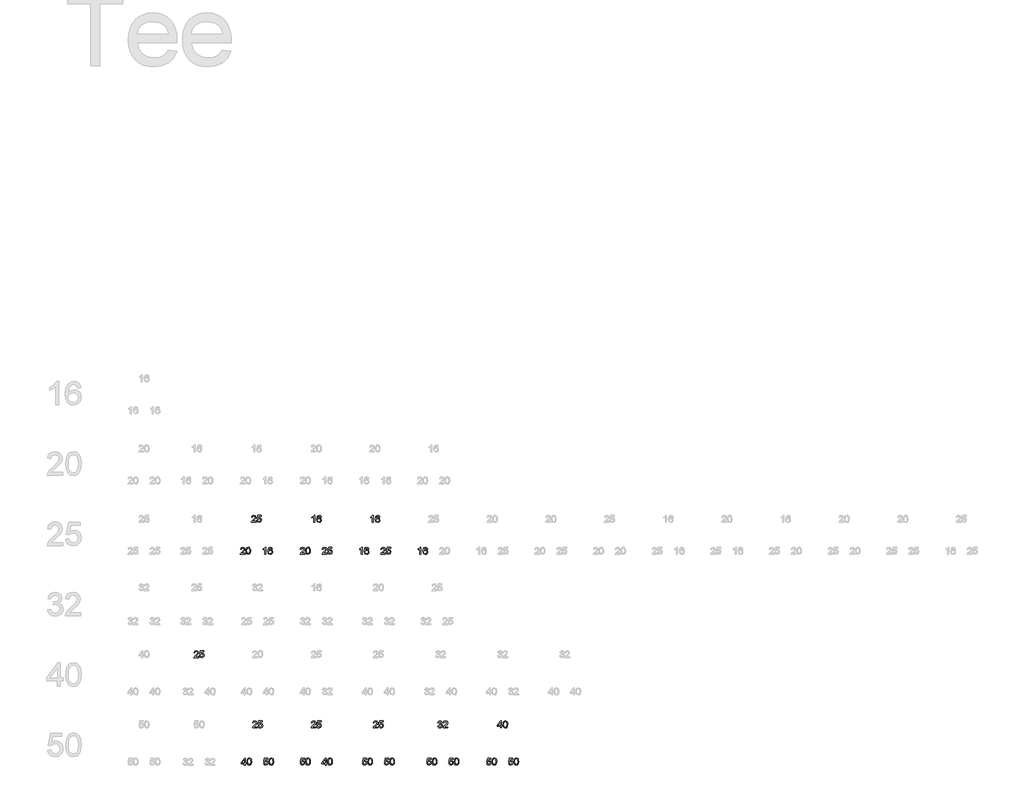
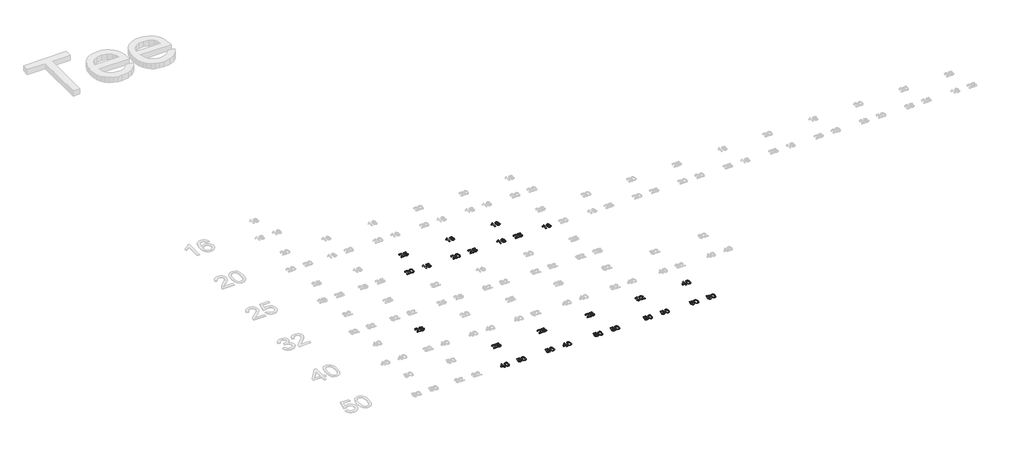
# One storey, part 17 of 26: 26 proxies.
"""IFC4 building model written with IfcOpenShell, lengths in millimetres."""

import ifcopenshell
import ifcopenshell.guid

model = None  # the IFC model being written
_history = None  # IfcOwnerHistory: only IFC2X3 demands one
_inside = {}  # id of a spatial element -> (the spatial element, [elements in it])
_under = {}  # id of a project, library or spatial element -> (it, [spatial elements below it])
_declared = {}  # id of a project -> (the project, [libraries it declares])
_typed = {}  # id of a type object -> (the type object, [elements of that type])
_made_of = {}  # id of a material, layer set ... -> (it, [elements and type objects made of it])


def new_model(schema):
    """Start an empty IFC model of exactly this schema.

    Asked for "IFC4X3", IfcOpenShell would pick the latest addendum, in which some entities
    have other attributes; the version numbers below select the first issue.
    IFC2X3 requires an IfcOwnerHistory on every rooted entity: one is made here for all.
    """
    global model, _history
    if schema == "IFC4X3":
        model = ifcopenshell.file(schema_version=(4, 3, 0, 0))
    else:
        model = ifcopenshell.file(schema=schema)
    _inside.clear()
    _under.clear()
    _declared.clear()
    _typed.clear()
    _made_of.clear()
    _history = None
    if model.schema == "IFC2X3":
        org = make("IfcOrganization", Name="unknown")
        user = make(
            "IfcPersonAndOrganization",
            ThePerson=make("IfcPerson", FamilyName="unknown"),
            TheOrganization=org,
        )
        app = make(
            "IfcApplication",
            ApplicationDeveloper=org,
            Version="unknown",
            ApplicationFullName="unknown",
            ApplicationIdentifier="unknown",
        )
        _history = make(
            "IfcOwnerHistory",
            OwningUser=user,
            OwningApplication=app,
            ChangeAction="ADDED",
            CreationDate=0,
        )
    return model


def make(cls, **values):
    """One entity of the class cls with the attributes given. An attribute that is None is left unset."""
    return model.create_entity(
        cls, **{name: value for name, value in values.items() if value is not None}
    )


def rooted(cls, **values):
    """An entity with a GlobalId (a new one), such as an element, a storey or a relation."""
    return make(cls, GlobalId=ifcopenshell.guid.new(), OwnerHistory=_history, **values)


def si_unit(unit_type, name, prefix=None):
    """IfcSIUnit, for example si_unit("LENGTHUNIT", "METRE", prefix="MILLI")."""
    return make("IfcSIUnit", UnitType=unit_type, Prefix=prefix, Name=name)


def assignment(units):
    """IfcUnitAssignment: the units of a project."""
    return None if units is None else make("IfcUnitAssignment", Units=units)


def point(xyz):
    """IfcCartesianPoint."""
    return None if xyz is None else make("IfcCartesianPoint", Coordinates=xyz)


def direction(xyz):
    """IfcDirection."""
    return None if xyz is None else make("IfcDirection", DirectionRatios=xyz)


def frame(location, z_axis=None, x_axis=None):
    """IfcAxis2Placement3D, a coordinate frame: its origin and axes. An axis left out is left unset."""
    return make(
        "IfcAxis2Placement3D",
        Location=point(location),
        Axis=direction(z_axis),
        RefDirection=direction(x_axis),
    )


def origin():
    """The frame at (0, 0, 0) with its axes left unset."""
    return frame((0.0, 0.0, 0.0))


def origin_with_axes():
    """The frame at (0, 0, 0) with the z axis (0, 0, 1) and the x axis (1, 0, 0) written out."""
    return frame((0.0, 0.0, 0.0), z_axis=(0.0, 0.0, 1.0), x_axis=(1.0, 0.0, 0.0))


def place(relative_to, where):
    """IfcLocalPlacement: puts the frame where relative to a parent placement (None: the world)."""
    return make(
        "IfcLocalPlacement", PlacementRelTo=relative_to, RelativePlacement=where
    )


def context(
    kind, dimensions, precision=None, world=None, true_north=None, identifier=None
):
    """IfcGeometricRepresentationContext, for example the 3D "Model" context."""
    return make(
        "IfcGeometricRepresentationContext",
        ContextIdentifier=identifier,
        ContextType=kind,
        CoordinateSpaceDimension=dimensions,
        Precision=precision,
        WorldCoordinateSystem=world,
        TrueNorth=true_north,
    )


def project(units=None, contexts=None):
    """IfcProject with its units and contexts."""
    return rooted(
        "IfcProject",
        Name="project",
        RepresentationContexts=contexts,
        UnitsInContext=assignment(units),
    )


def spatial(cls, under=None, at=None, **own):
    """A site, building, storey or space (cls), placed at a placement, below another one or the project."""
    s = rooted(cls, ObjectPlacement=at, **own)
    if under is not None:
        _under.setdefault(under.id(), (under, []))[1].append(s)
    return s


def polyline(points):
    """IfcPolyline through the points."""
    return make("IfcPolyline", Points=[point(p) for p in points])


def outline(outer, holes=None, kind="AREA"):
    """IfcArbitraryClosedProfileDef: a profile drawn as a closed curve; with holes, ...WithVoids."""
    if holes is None:
        return make("IfcArbitraryClosedProfileDef", ProfileType=kind, OuterCurve=outer)
    return make(
        "IfcArbitraryProfileDefWithVoids",
        ProfileType=kind,
        OuterCurve=outer,
        InnerCurves=holes,
    )


def extrude(swept, where, along, depth):
    """IfcExtrudedAreaSolid: the profile swept, set in the frame where, extruded along a direction by depth."""
    return make(
        "IfcExtrudedAreaSolid",
        SweptArea=swept,
        Position=where,
        ExtrudedDirection=direction(along),
        Depth=depth,
    )


def shape(context_of_items, identifier, shape_type, items):
    """IfcShapeRepresentation: the items that make up one representation, for example the "Body"."""
    return make(
        "IfcShapeRepresentation",
        ContextOfItems=context_of_items,
        RepresentationIdentifier=identifier,
        RepresentationType=shape_type,
        Items=items,
    )


def made_of(thing, what):
    """Note that an element or type object is made of a material, layer set ...; save() writes the relation."""
    if what is not None:
        _made_of.setdefault(what.id(), (what, []))[1].append(thing)
    return thing


def element(
    cls,
    number,
    at=None,
    inside=None,
    cuts=None,
    type_object=None,
    material=None,
    context=None,
    identifier="Body",
    shape_type=None,
    held_by="IfcProductDefinitionShape",
    body=None,
    shapes=None,
    **own,
):
    """One element of the class cls, such as IfcWall. Its Tag is "e" and its number.

    at: its placement. inside: the storey or other place that contains it. cuts: it is an
    opening in that element (IfcRelVoidsElement). A single representation is given by context,
    identifier, shape_type and body (its items); several are given by shapes. held_by: the class
    of the entity that holds the representations. save() writes the other relations.
    """
    e = rooted(cls, Tag="e%d" % number, ObjectPlacement=at, **own)
    if body is not None:
        shapes = [shape(context, identifier, shape_type, body)]
    if shapes is not None:
        e.Representation = make(held_by, Representations=shapes)
    if inside is not None:
        _inside.setdefault(inside.id(), (inside, []))[1].append(e)
    if cuts is not None:
        rooted(
            "IfcRelVoidsElement", RelatingBuildingElement=cuts, RelatedOpeningElement=e
        )
    if type_object is not None:
        _typed.setdefault(type_object.id(), (type_object, []))[1].append(e)
    return made_of(e, material)


def aggregate(whole, parts):
    """IfcRelAggregates: a whole, such as a stair, and the parts it consists of."""
    return rooted("IfcRelAggregates", RelatingObject=whole, RelatedObjects=parts)


def save(model, path):
    """Write the relations noted so far, then the file.

    IfcRelAggregates (storeys below a building ...), IfcRelContainedInSpatialStructure (elements
    in a storey), IfcRelDefinesByType, IfcRelAssociatesMaterial and IfcRelDeclares: one each for
    every whole, place, type object, material and project.
    """
    for whole, parts in _under.values():
        aggregate(whole, parts)
    for where, things in _inside.values():
        rooted(
            "IfcRelContainedInSpatialStructure",
            RelatedElements=things,
            RelatingStructure=where,
        )
    for kind, things in _typed.values():
        rooted("IfcRelDefinesByType", RelatedObjects=things, RelatingType=kind)
    for what, things in _made_of.values():
        rooted("IfcRelAssociatesMaterial", RelatedObjects=things, RelatingMaterial=what)
    for by, libraries in _declared.values():
        rooted("IfcRelDeclares", RelatingContext=by, RelatedDefinitions=libraries)
    model.write(path)


model = new_model("IFC4")

# Units and contexts
model_context = context("Model", 3, world=origin())
ifc_project = project(units=[si_unit("LENGTHUNIT", "METRE", prefix="MILLI")], contexts=[model_context])

# Site, building, storey
site = spatial("IfcSite", under=ifc_project)
building = spatial("IfcBuilding", under=site)
storey = spatial("IfcBuildingStorey", under=building, Name="Superpipe UFH", Elevation=0.0)

# Proxies
placement = place(None, origin())
element("IfcBuildingElementProxy", 1, Name="30mm Arial", ObjectType="30mm Arial", at=placement, inside=storey, context=model_context, shape_type="SweptSolid", body=[
    extrude(outline(polyline([(26013.2485753, 23692.297075), (26013.2485753, 23688.5299634), (25993.4712392, 23688.5299634), (25993.8759094, 23691.1272103), (25996.1641354, 23695.1260876), (26000.8803826, 23699.4928469), (26007.3845363, 23705.7689137), (26009.0105747, 23710.0363449), (26007.4765068, 23713.4907568), (26003.4702719, 23714.8997448), (25999.2948112, 23713.5238662), (25997.7092398, 23709.7199663), (25993.9421282, 23710.1908553), (25996.8300018, 23716.4963527), (26003.5512059, 23718.6668565), (26010.2944829, 23716.2535506), (26012.7776863, 23710.2644317), (26012.1081411, 23706.6922975), (26009.882455, 23702.9987623), (26004.4856262, 23697.8373779), (26000.1519763, 23694.2137402), (25998.4523614, 23692.297075), (26013.2485753, 23692.297075)])), origin_with_axes(), (0.0, 0.0, 1.0), 2.0),
    extrude(outline(polyline([(26017.0156869, 23703.3556078), (26018.1230117, 23712.0265864), (26021.4118768, 23717.0261028), (26026.904355, 23718.6668565), (26031.3042236, 23717.695648), (26034.3429289, 23714.896066), (26036.1087625, 23710.4373362), (26036.793023, 23703.3556078), (26035.6967346, 23694.7214174), (26032.4189061, 23689.7108646), (26026.904355, 23688.0590745), (26020.017604, 23690.928554), (26017.0156869, 23703.3556078)]), holes=[polyline([(26020.7827986, 23703.3629655), (26022.5486321, 23694.0077263), (26026.904355, 23691.8261861), (26031.2600778, 23694.015084), (26033.0259114, 23703.3629655), (26031.3189389, 23712.6115188), (26026.8602091, 23714.8997448), (26022.6074932, 23712.8837515), (26020.7827986, 23703.3629655)])]), origin_with_axes(), (0.0, 0.0, 1.0), 2.0),
])
element("IfcBuildingElementProxy", 2, Name="30mm Arial", ObjectType="30mm Arial", at=placement, inside=storey, context=model_context, shape_type="SweptSolid", body=[
    extrude(outline(polyline([(26101.8187968, 23688.5299634), (26098.0516852, 23688.5299634), (26098.0516852, 23712.01555), (26094.4832298, 23709.4734854), (26090.5174619, 23707.5715355), (26090.5174619, 23711.1326332), (26096.0393707, 23714.6569427), (26099.3907756, 23718.6668565), (26101.8187968, 23718.6668565), (26101.8187968, 23688.5299634)])), origin_with_axes(), (0.0, 0.0, 1.0), 2.0),
    extrude(outline(polyline([(26130.072134, 23710.6617442), (26126.3050224, 23710.1908553), (26124.8776403, 23713.3325675), (26121.103171, 23714.8997448), (26117.7039414, 23713.9873975), (26115.1324462, 23710.5624161), (26114.0619096, 23703.8485697), (26117.383884, 23706.8541656), (26121.5004835, 23707.8364105), (26127.9016303, 23705.150872), (26130.543023, 23698.2126175), (26129.2995818, 23693.0144449), (26125.8782793, 23689.335625), (26120.9413029, 23688.0590745), (26113.2636057, 23691.4435888), (26110.294798, 23702.5977709), (26113.5910206, 23715.2308386), (26121.3386155, 23718.6668565), (26127.2909461, 23716.5404985), (26130.072134, 23710.6617442)]), holes=[polyline([(26114.0619096, 23698.2714786), (26114.9337899, 23695.0083653), (26117.2514465, 23692.6392053), (26120.6469973, 23691.8261861), (26125.087333, 23693.5110856), (26126.7759114, 23698.0875376), (26125.1094059, 23702.4690122), (26120.4924869, 23704.0692989), (26115.934429, 23702.4690122), (26114.0619096, 23698.2714786)])]), origin_with_axes(), (0.0, 0.0, 1.0), 2.0),
])
element("IfcBuildingElementProxy", 3, Name="30mm Arial", ObjectType="30mm Arial", at=placement, inside=storey, context=model_context, shape_type="SweptSolid", body=[
    extrude(outline(polyline([(26060.1767601, 23828.6157156), (26060.1767601, 23824.848604), (26040.399424, 23824.848604), (26040.8040942, 23827.4458509), (26043.0923202, 23831.4447281), (26047.8085674, 23835.8114874), (26054.3127211, 23842.0875543), (26055.9387595, 23846.3549854), (26054.4046916, 23849.8093973), (26050.3984567, 23851.2183854), (26046.222996, 23849.8425067), (26044.6374246, 23846.0386069), (26040.870313, 23846.5094959), (26043.7581867, 23852.8149932), (26050.4793907, 23854.985497), (26057.2226677, 23852.5721911), (26059.7058711, 23846.5830723), (26059.0363259, 23843.0109381), (26056.8106398, 23839.3174028), (26051.413811, 23834.1560185), (26047.0801611, 23830.5323808), (26045.3805463, 23828.6157156), (26060.1767601, 23828.6157156)])), origin_with_axes(), (0.0, 0.0, 1.0), 2.0),
    extrude(outline(polyline([(26063.9438717, 23832.8537162), (26067.7109834, 23833.3246051), (26069.6092545, 23829.4434501), (26073.5455918, 23828.1448267), (26078.2691966, 23829.9511272), (26079.9540962, 23834.7446296), (26078.3758824, 23839.2180747), (26073.6044529, 23840.8588284), (26070.2971938, 23840.2039985), (26068.1818723, 23838.5043836), (26064.4147607, 23838.9752726), (26067.7109834, 23854.5146081), (26082.3085409, 23854.5146081), (26082.3085409, 23850.7474964), (26070.7570463, 23850.7474964), (26069.1457231, 23842.4480786), (26074.6565954, 23844.62594), (26081.0982092, 23841.9256862), (26083.7212078, 23834.9800741), (26081.3594054, 23827.9903162), (26073.5308765, 23824.377715), (26066.8832489, 23826.6990504), (26063.9438717, 23832.8537162)])), origin_with_axes(), (0.0, 0.0, 1.0), 2.0),
])
element("IfcBuildingElementProxy", 4, Name="30mm Arial", ObjectType="30mm Arial", at=placement, inside=storey, context=model_context, shape_type="SweptSolid", body=[
    extrude(outline(polyline([(26268.2485753, 23692.297075), (26268.2485753, 23688.5299634), (26248.4712392, 23688.5299634), (26248.8759094, 23691.1272103), (26251.1641354, 23695.1260876), (26255.8803826, 23699.4928469), (26262.3845363, 23705.7689137), (26264.0105747, 23710.0363449), (26262.4765068, 23713.4907568), (26258.4702719, 23714.8997448), (26254.2948112, 23713.5238662), (26252.7092398, 23709.7199663), (26248.9421282, 23710.1908553), (26251.8300018, 23716.4963527), (26258.5512059, 23718.6668565), (26265.2944829, 23716.2535506), (26267.7776863, 23710.2644317), (26267.1081411, 23706.6922975), (26264.882455, 23702.9987623), (26259.4856262, 23697.8373779), (26255.1519763, 23694.2137402), (26253.4523614, 23692.297075), (26268.2485753, 23692.297075)])), origin_with_axes(), (0.0, 0.0, 1.0), 2.0),
    extrude(outline(polyline([(26272.0156869, 23703.3556078), (26273.1230117, 23712.0265864), (26276.4118768, 23717.0261028), (26281.904355, 23718.6668565), (26286.3042236, 23717.695648), (26289.3429289, 23714.896066), (26291.1087625, 23710.4373362), (26291.793023, 23703.3556078), (26290.6967346, 23694.7214174), (26287.4189061, 23689.7108646), (26281.904355, 23688.0590745), (26275.017604, 23690.928554), (26272.0156869, 23703.3556078)]), holes=[polyline([(26275.7827986, 23703.3629655), (26277.5486321, 23694.0077263), (26281.904355, 23691.8261861), (26286.2600778, 23694.015084), (26288.0259114, 23703.3629655), (26286.3189389, 23712.6115188), (26281.8602091, 23714.8997448), (26277.6074932, 23712.8837515), (26275.7827986, 23703.3629655)])]), origin_with_axes(), (0.0, 0.0, 1.0), 2.0),
])
element("IfcBuildingElementProxy", 5, Name="30mm Arial", ObjectType="30mm Arial", at=placement, inside=storey, context=model_context, shape_type="SweptSolid", body=[
    extrude(outline(polyline([(26361.9985753, 23692.297075), (26361.9985753, 23688.5299634), (26342.2212392, 23688.5299634), (26342.6259094, 23691.1272103), (26344.9141354, 23695.1260876), (26349.6303826, 23699.4928469), (26356.1345363, 23705.7689137), (26357.7605747, 23710.0363449), (26356.2265068, 23713.4907568), (26352.2202719, 23714.8997448), (26348.0448112, 23713.5238662), (26346.4592398, 23709.7199663), (26342.6921282, 23710.1908553), (26345.5800018, 23716.4963527), (26352.3012059, 23718.6668565), (26359.0444829, 23716.2535506), (26361.5276863, 23710.2644317), (26360.8581411, 23706.6922975), (26358.632455, 23702.9987623), (26353.2356262, 23697.8373779), (26348.9019763, 23694.2137402), (26347.2023614, 23692.297075), (26361.9985753, 23692.297075)])), origin_with_axes(), (0.0, 0.0, 1.0), 2.0),
    extrude(outline(polyline([(26365.7656869, 23696.5350756), (26369.5327986, 23697.0059646), (26371.4310696, 23693.1248095), (26375.367407, 23691.8261861), (26380.0910118, 23693.6324867), (26381.7759114, 23698.4259891), (26380.1976976, 23702.8994341), (26375.4262681, 23704.5401878), (26372.119009, 23703.8853579), (26370.0036875, 23702.1857431), (26366.2365759, 23702.656632), (26369.5327986, 23718.1959675), (26384.1303561, 23718.1959675), (26384.1303561, 23714.4288559), (26372.5788615, 23714.4288559), (26370.9675383, 23706.1294381), (26376.4784106, 23708.3072995), (26382.9200244, 23705.6070456), (26385.543023, 23698.6614336), (26383.1812206, 23691.6716757), (26375.3526917, 23688.0590745), (26368.7050641, 23690.3804098), (26365.7656869, 23696.5350756)])), origin_with_axes(), (0.0, 0.0, 1.0), 2.0),
])
element("IfcBuildingElementProxy", 6, Name="30mm Arial", ObjectType="30mm Arial", at=placement, inside=storey, context=model_context, shape_type="SweptSolid", body=[
    extrude(outline(polyline([(26309.9969816, 23824.848604), (26306.22987, 23824.848604), (26306.22987, 23848.3341905), (26302.6614146, 23845.792126), (26298.6956467, 23843.890176), (26298.6956467, 23847.4512738), (26304.2175555, 23850.9755833), (26307.5689604, 23854.985497), (26309.9969816, 23854.985497), (26309.9969816, 23824.848604)])), origin_with_axes(), (0.0, 0.0, 1.0), 2.0),
    extrude(outline(polyline([(26338.2503188, 23846.9803848), (26334.4832072, 23846.5094959), (26333.0558251, 23849.6512081), (26329.2813558, 23851.2183854), (26325.8821262, 23850.306038), (26323.310631, 23846.8810567), (26322.2400944, 23840.1672103), (26325.5620688, 23843.1728062), (26329.6786683, 23844.1550511), (26336.0798151, 23841.4695125), (26338.7212078, 23834.5312581), (26337.4777666, 23829.3330855), (26334.0564641, 23825.6542655), (26329.1194877, 23824.377715), (26321.4417905, 23827.7622294), (26318.4729828, 23838.9164115), (26321.7692055, 23851.5494792), (26329.5168003, 23854.985497), (26335.469131, 23852.8591391), (26338.2503188, 23846.9803848)]), holes=[polyline([(26322.2400944, 23834.5901192), (26323.1119747, 23831.3270059), (26325.4296313, 23828.9578459), (26328.8251821, 23828.1448267), (26333.2655178, 23829.8297262), (26334.9540962, 23834.4061782), (26333.2875907, 23838.7876528), (26328.6706717, 23840.3879395), (26324.1126138, 23838.7876528), (26322.2400944, 23834.5901192)])]), origin_with_axes(), (0.0, 0.0, 1.0), 2.0),
])
element("IfcBuildingElementProxy", 7, Name="30mm Arial", ObjectType="30mm Arial", at=placement, inside=storey, context=model_context, shape_type="SweptSolid", body=[
    extrude(outline(polyline([(26513.3488961, 23688.5299634), (26509.5817845, 23688.5299634), (26509.5817845, 23712.01555), (26506.0133291, 23709.4734854), (26502.0475612, 23707.5715355), (26502.0475612, 23711.1326332), (26507.56947, 23714.6569427), (26510.9208749, 23718.6668565), (26513.3488961, 23718.6668565), (26513.3488961, 23688.5299634)])), origin_with_axes(), (0.0, 0.0, 1.0), 2.0),
    extrude(outline(polyline([(26541.6022333, 23710.6617442), (26537.8351217, 23710.1908553), (26536.4077396, 23713.3325675), (26532.6332703, 23714.8997448), (26529.2340407, 23713.9873975), (26526.6625455, 23710.5624161), (26525.5920089, 23703.8485697), (26528.9139833, 23706.8541656), (26533.0305829, 23707.8364105), (26539.4317296, 23705.150872), (26542.0731223, 23698.2126175), (26540.8296812, 23693.0144449), (26537.4083786, 23689.335625), (26532.4714022, 23688.0590745), (26524.793705, 23691.4435888), (26521.8248973, 23702.5977709), (26525.12112, 23715.2308386), (26532.8687148, 23718.6668565), (26538.8210455, 23716.5404985), (26541.6022333, 23710.6617442)]), holes=[polyline([(26525.5920089, 23698.2714786), (26526.4638892, 23695.0083653), (26528.7815458, 23692.6392053), (26532.1770966, 23691.8261861), (26536.6174323, 23693.5110856), (26538.3060107, 23698.0875376), (26536.6395052, 23702.4690122), (26532.0225862, 23704.0692989), (26527.4645283, 23702.4690122), (26525.5920089, 23698.2714786)])]), origin_with_axes(), (0.0, 0.0, 1.0), 2.0),
])
element("IfcBuildingElementProxy", 8, Name="30mm Arial", ObjectType="30mm Arial", at=placement, inside=storey, context=model_context, shape_type="SweptSolid", body=[
    extrude(outline(polyline([(26612.2786746, 23692.297075), (26612.2786746, 23688.5299634), (26592.5013385, 23688.5299634), (26592.9060087, 23691.1272103), (26595.1942347, 23695.1260876), (26599.9104819, 23699.4928469), (26606.4146356, 23705.7689137), (26608.040674, 23710.0363449), (26606.5066061, 23713.4907568), (26602.5003712, 23714.8997448), (26598.3249105, 23713.5238662), (26596.7393391, 23709.7199663), (26592.9722275, 23710.1908553), (26595.8601012, 23716.4963527), (26602.5813052, 23718.6668565), (26609.3245822, 23716.2535506), (26611.8077856, 23710.2644317), (26611.1382404, 23706.6922975), (26608.9125543, 23702.9987623), (26603.5157255, 23697.8373779), (26599.1820756, 23694.2137402), (26597.4824608, 23692.297075), (26612.2786746, 23692.297075)])), origin_with_axes(), (0.0, 0.0, 1.0), 2.0),
    extrude(outline(polyline([(26616.0457862, 23696.5350756), (26619.8128979, 23697.0059646), (26621.711169, 23693.1248095), (26625.6475063, 23691.8261861), (26630.3711111, 23693.6324867), (26632.0560107, 23698.4259891), (26630.4777969, 23702.8994341), (26625.7063674, 23704.5401878), (26622.3991083, 23703.8853579), (26620.2837868, 23702.1857431), (26616.5166752, 23702.656632), (26619.8128979, 23718.1959675), (26634.4104554, 23718.1959675), (26634.4104554, 23714.4288559), (26622.8589608, 23714.4288559), (26621.2476376, 23706.1294381), (26626.7585099, 23708.3072995), (26633.2001237, 23705.6070456), (26635.8231223, 23698.6614336), (26633.4613199, 23691.6716757), (26625.632791, 23688.0590745), (26618.9851634, 23690.3804098), (26616.0457862, 23696.5350756)])), origin_with_axes(), (0.0, 0.0, 1.0), 2.0),
])
element("IfcBuildingElementProxy", 9, Name="30mm Arial", ObjectType="30mm Arial", at=placement, inside=storey, context=model_context, shape_type="SweptSolid", body=[
    extrude(outline(polyline([(26560.2770809, 23824.848604), (26556.5099693, 23824.848604), (26556.5099693, 23848.3341905), (26552.9415139, 23845.792126), (26548.975746, 23843.890176), (26548.975746, 23847.4512738), (26554.4976548, 23850.9755833), (26557.8490597, 23854.985497), (26560.2770809, 23854.985497), (26560.2770809, 23824.848604)])), origin_with_axes(), (0.0, 0.0, 1.0), 2.0),
    extrude(outline(polyline([(26588.5304181, 23846.9803848), (26584.7633065, 23846.5094959), (26583.3359244, 23849.6512081), (26579.5614551, 23851.2183854), (26576.1622255, 23850.306038), (26573.5907303, 23846.8810567), (26572.5201937, 23840.1672103), (26575.8421681, 23843.1728062), (26579.9587677, 23844.1550511), (26586.3599144, 23841.4695125), (26589.0013071, 23834.5312581), (26587.757866, 23829.3330855), (26584.3365634, 23825.6542655), (26579.399587, 23824.377715), (26571.7218898, 23827.7622294), (26568.7530821, 23838.9164115), (26572.0493048, 23851.5494792), (26579.7968996, 23854.985497), (26585.7492303, 23852.8591391), (26588.5304181, 23846.9803848)]), holes=[polyline([(26572.5201937, 23834.5901192), (26573.392074, 23831.3270059), (26575.7097306, 23828.9578459), (26579.1052814, 23828.1448267), (26583.5456171, 23829.8297262), (26585.2341955, 23834.4061782), (26583.56769, 23838.7876528), (26578.950771, 23840.3879395), (26574.3927131, 23838.7876528), (26572.5201937, 23834.5901192)])]), origin_with_axes(), (0.0, 0.0, 1.0), 2.0),
])
element("IfcBuildingElementProxy", 10, Name="30mm Arial", ObjectType="30mm Arial", at=placement, inside=storey, context=model_context, shape_type="SweptSolid", body=[
    extrude(outline(polyline([(26763.6289954, 23688.5299634), (26759.8618838, 23688.5299634), (26759.8618838, 23712.01555), (26756.2934284, 23709.4734854), (26752.3276605, 23707.5715355), (26752.3276605, 23711.1326332), (26757.8495693, 23714.6569427), (26761.2009743, 23718.6668565), (26763.6289954, 23718.6668565), (26763.6289954, 23688.5299634)])), origin_with_axes(), (0.0, 0.0, 1.0), 2.0),
    extrude(outline(polyline([(26791.8823327, 23710.6617442), (26788.115221, 23710.1908553), (26786.6878389, 23713.3325675), (26782.9133696, 23714.8997448), (26779.51414, 23713.9873975), (26776.9426448, 23710.5624161), (26775.8721082, 23703.8485697), (26779.1940826, 23706.8541656), (26783.3106822, 23707.8364105), (26789.7118289, 23705.150872), (26792.3532216, 23698.2126175), (26791.1097805, 23693.0144449), (26787.6884779, 23689.335625), (26782.7515015, 23688.0590745), (26775.0738043, 23691.4435888), (26772.1049966, 23702.5977709), (26775.4012193, 23715.2308386), (26783.1488141, 23718.6668565), (26789.1011448, 23716.5404985), (26791.8823327, 23710.6617442)]), holes=[polyline([(26775.8721082, 23698.2714786), (26776.7439885, 23695.0083653), (26779.0616451, 23692.6392053), (26782.4571959, 23691.8261861), (26786.8975316, 23693.5110856), (26788.58611, 23698.0875376), (26786.9196045, 23702.4690122), (26782.3026855, 23704.0692989), (26777.7446276, 23702.4690122), (26775.8721082, 23698.2714786)])]), origin_with_axes(), (0.0, 0.0, 1.0), 2.0),
])
element("IfcBuildingElementProxy", 11, Name="30mm Arial", ObjectType="30mm Arial", at=placement, inside=storey, context=model_context, shape_type="SweptSolid", body=[
    extrude(outline(polyline([(25815.1767601, 23251.1157156), (25815.1767601, 23247.348604), (25795.399424, 23247.348604), (25795.8040942, 23249.9458509), (25798.0923202, 23253.9447281), (25802.8085674, 23258.3114874), (25809.3127211, 23264.5875543), (25810.9387595, 23268.8549854), (25809.4046916, 23272.3093973), (25805.3984567, 23273.7183854), (25801.222996, 23272.3425067), (25799.6374246, 23268.5386069), (25795.870313, 23269.0094959), (25798.7581867, 23275.3149932), (25805.4793907, 23277.485497), (25812.2226677, 23275.0721911), (25814.7058711, 23269.0830723), (25814.0363259, 23265.5109381), (25811.8106398, 23261.8174028), (25806.413811, 23256.6560185), (25802.0801611, 23253.0323808), (25800.3805463, 23251.1157156), (25815.1767601, 23251.1157156)])), origin_with_axes(), (0.0, 0.0, 1.0), 2.0),
    extrude(outline(polyline([(25818.9438717, 23255.3537162), (25822.7109834, 23255.8246051), (25824.6092545, 23251.9434501), (25828.5455918, 23250.6448267), (25833.2691966, 23252.4511272), (25834.9540962, 23257.2446296), (25833.3758824, 23261.7180747), (25828.6044529, 23263.3588284), (25825.2971938, 23262.7039985), (25823.1818723, 23261.0043836), (25819.4147607, 23261.4752726), (25822.7109834, 23277.0146081), (25837.3085409, 23277.0146081), (25837.3085409, 23273.2474964), (25825.7570463, 23273.2474964), (25824.1457231, 23264.9480786), (25829.6565954, 23267.12594), (25836.0982092, 23264.4256862), (25838.7212078, 23257.4800741), (25836.3594054, 23250.4903162), (25828.5308765, 23246.877715), (25821.8832489, 23249.1990504), (25818.9438717, 23255.3537162)])), origin_with_axes(), (0.0, 0.0, 1.0), 2.0),
])
element("IfcBuildingElementProxy", 12, Name="30mm Arial", ObjectType="30mm Arial", at=placement, inside=storey, context=model_context, shape_type="SweptSolid", body=[
    extrude(outline(polyline([(26010.9051417, 22788.5299634), (26010.9051417, 22795.5932977), (25997.249362, 22795.5932977), (25997.249362, 22799.3604094), (26011.8469196, 22818.1959675), (26014.6722533, 22818.1959675), (26014.6722533, 22799.3604094), (26018.4393649, 22799.3604094), (26018.4393649, 22795.5932977), (26014.6722533, 22795.5932977), (26014.6722533, 22788.5299634), (26010.9051417, 22788.5299634)]), holes=[polyline([(26010.9051417, 22799.3604094), (26010.9051417, 22811.0001957), (26001.8846752, 22799.3604094), (26010.9051417, 22799.3604094)])]), origin_with_axes(), (0.0, 0.0, 1.0), 2.0),
    extrude(outline(polyline([(26021.7355876, 22803.3556078), (26022.8429124, 22812.0265864), (26026.1317775, 22817.0261028), (26031.6242556, 22818.6668565), (26036.0241243, 22817.695648), (26039.0628296, 22814.896066), (26040.8286632, 22810.4373362), (26041.5129237, 22803.3556078), (26040.4166353, 22794.7214174), (26037.1388068, 22789.7108646), (26031.6242556, 22788.0590745), (26024.7375047, 22790.928554), (26021.7355876, 22803.3556078)]), holes=[polyline([(26025.5026992, 22803.3629655), (26027.2685328, 22794.0077263), (26031.6242556, 22791.8261861), (26035.9799785, 22794.015084), (26037.745812, 22803.3629655), (26036.0388396, 22812.6115188), (26031.5801098, 22814.8997448), (26027.3273939, 22812.8837515), (26025.5026992, 22803.3629655)])]), origin_with_axes(), (0.0, 0.0, 1.0), 2.0),
])
element("IfcBuildingElementProxy", 13, Name="30mm Arial", ObjectType="30mm Arial", at=placement, inside=storey, context=model_context, shape_type="SweptSolid", body=[
    extrude(outline(polyline([(26092.4120289, 22796.5350756), (26096.1791405, 22797.0059646), (26098.0774116, 22793.1248095), (26102.0137489, 22791.8261861), (26106.7373538, 22793.6324867), (26108.4222533, 22798.4259891), (26106.8440395, 22802.8994341), (26102.0726101, 22804.5401878), (26098.7653509, 22803.8853579), (26096.6500295, 22802.1857431), (26092.8829178, 22802.656632), (26096.1791405, 22818.1959675), (26110.7766981, 22818.1959675), (26110.7766981, 22814.4288559), (26099.2252034, 22814.4288559), (26097.6138803, 22806.1294381), (26103.1247526, 22808.3072995), (26109.5663663, 22805.6070456), (26112.1893649, 22798.6614336), (26109.8275625, 22791.6716757), (26101.9990337, 22788.0590745), (26095.351406, 22790.3804098), (26092.4120289, 22796.5350756)])), origin_with_axes(), (0.0, 0.0, 1.0), 2.0),
    extrude(outline(polyline([(26115.4855876, 22803.3556078), (26116.5929124, 22812.0265864), (26119.8817775, 22817.0261028), (26125.3742556, 22818.6668565), (26129.7741243, 22817.695648), (26132.8128296, 22814.896066), (26134.5786632, 22810.4373362), (26135.2629237, 22803.3556078), (26134.1666353, 22794.7214174), (26130.8888067, 22789.7108646), (26125.3742556, 22788.0590745), (26118.4875047, 22790.928554), (26115.4855876, 22803.3556078)]), holes=[polyline([(26119.2526992, 22803.3629655), (26121.0185328, 22794.0077263), (26125.3742556, 22791.8261861), (26129.7299785, 22794.015084), (26131.495812, 22803.3629655), (26129.7888396, 22812.6115188), (26125.3301098, 22814.8997448), (26121.0773939, 22812.8837515), (26119.2526992, 22803.3629655)])]), origin_with_axes(), (0.0, 0.0, 1.0), 2.0),
])
element("IfcBuildingElementProxy", 14, Name="30mm Arial", ObjectType="30mm Arial", at=placement, inside=storey, context=model_context, shape_type="SweptSolid", body=[
    extrude(outline(polyline([(26064.8966608, 22951.1157156), (26064.8966608, 22947.348604), (26045.1193247, 22947.348604), (26045.5239949, 22949.9458509), (26047.8122209, 22953.9447281), (26052.5284681, 22958.3114874), (26059.0326218, 22964.5875543), (26060.6586602, 22968.8549854), (26059.1245923, 22972.3093973), (26055.1183574, 22973.7183854), (26050.9428967, 22972.3425067), (26049.3573253, 22968.5386069), (26045.5902137, 22969.0094959), (26048.4780873, 22975.3149932), (26055.1992914, 22977.485497), (26061.9425684, 22975.0721911), (26064.4257718, 22969.0830723), (26063.7562266, 22965.5109381), (26061.5305405, 22961.8174028), (26056.1337117, 22956.6560185), (26051.8000618, 22953.0323808), (26050.1004469, 22951.1157156), (26064.8966608, 22951.1157156)])), origin_with_axes(), (0.0, 0.0, 1.0), 2.0),
    extrude(outline(polyline([(26068.6637724, 22955.3537162), (26072.430884, 22955.8246051), (26074.3291551, 22951.9434501), (26078.2654925, 22950.6448267), (26082.9890973, 22952.4511272), (26084.6739968, 22957.2446296), (26083.0957831, 22961.7180747), (26078.3243536, 22963.3588284), (26075.0170945, 22962.7039985), (26072.901773, 22961.0043836), (26069.1346614, 22961.4752726), (26072.430884, 22977.0146081), (26087.0284416, 22977.0146081), (26087.0284416, 22973.2474964), (26075.476947, 22973.2474964), (26073.8656238, 22964.9480786), (26079.3764961, 22967.12594), (26085.8181099, 22964.4256862), (26088.4411085, 22957.4800741), (26086.0793061, 22950.4903162), (26078.2507772, 22946.877715), (26071.6031496, 22949.1990504), (26068.6637724, 22955.3537162)])), origin_with_axes(), (0.0, 0.0, 1.0), 2.0),
])
element("IfcBuildingElementProxy", 15, Name="30mm Arial", ObjectType="30mm Arial", at=placement, inside=storey, context=model_context, shape_type="SweptSolid", body=[
    extrude(outline(polyline([(26249.2222275, 22796.5350756), (26252.9893391, 22797.0059646), (26254.8876102, 22793.1248095), (26258.8239476, 22791.8261861), (26263.5475524, 22793.6324867), (26265.2324519, 22798.4259891), (26263.6542382, 22802.8994341), (26258.8828087, 22804.5401878), (26255.5755496, 22803.8853579), (26253.4602281, 22802.1857431), (26249.6931164, 22802.656632), (26252.9893391, 22818.1959675), (26267.5868967, 22818.1959675), (26267.5868967, 22814.4288559), (26256.035402, 22814.4288559), (26254.4240789, 22806.1294381), (26259.9349512, 22808.3072995), (26266.3765649, 22805.6070456), (26268.9995636, 22798.6614336), (26266.6377611, 22791.6716757), (26258.8092323, 22788.0590745), (26252.1616046, 22790.3804098), (26249.2222275, 22796.5350756)])), origin_with_axes(), (0.0, 0.0, 1.0), 2.0),
    extrude(outline(polyline([(26272.2957862, 22803.3556078), (26273.403111, 22812.0265864), (26276.6919761, 22817.0261028), (26282.1844543, 22818.6668565), (26286.5843229, 22817.695648), (26289.6230282, 22814.896066), (26291.3888618, 22810.4373362), (26292.0731223, 22803.3556078), (26290.9768339, 22794.7214174), (26287.6990054, 22789.7108646), (26282.1844543, 22788.0590745), (26275.2977033, 22790.928554), (26272.2957862, 22803.3556078)]), holes=[polyline([(26276.0628979, 22803.3629655), (26277.8287314, 22794.0077263), (26282.1844543, 22791.8261861), (26286.5401771, 22794.015084), (26288.3060107, 22803.3629655), (26286.5990382, 22812.6115188), (26282.1403084, 22814.8997448), (26277.8875926, 22812.8837515), (26276.0628979, 22803.3629655)])]), origin_with_axes(), (0.0, 0.0, 1.0), 2.0),
])
element("IfcBuildingElementProxy", 16, Name="30mm Arial", ObjectType="30mm Arial", at=placement, inside=storey, context=model_context, shape_type="SweptSolid", body=[
    extrude(outline(polyline([(26355.2153403, 22788.5299634), (26355.2153403, 22795.5932977), (26341.5595606, 22795.5932977), (26341.5595606, 22799.3604094), (26356.1571182, 22818.1959675), (26358.9824519, 22818.1959675), (26358.9824519, 22799.3604094), (26362.7495636, 22799.3604094), (26362.7495636, 22795.5932977), (26358.9824519, 22795.5932977), (26358.9824519, 22788.5299634), (26355.2153403, 22788.5299634)]), holes=[polyline([(26355.2153403, 22799.3604094), (26355.2153403, 22811.0001957), (26346.1948738, 22799.3604094), (26355.2153403, 22799.3604094)])]), origin_with_axes(), (0.0, 0.0, 1.0), 2.0),
    extrude(outline(polyline([(26366.0457862, 22803.3556078), (26367.153111, 22812.0265864), (26370.4419761, 22817.0261028), (26375.9344543, 22818.6668565), (26380.3343229, 22817.695648), (26383.3730282, 22814.896066), (26385.1388618, 22810.4373362), (26385.8231223, 22803.3556078), (26384.7268339, 22794.7214174), (26381.4490054, 22789.7108646), (26375.9344543, 22788.0590745), (26369.0477033, 22790.928554), (26366.0457862, 22803.3556078)]), holes=[polyline([(26369.8128979, 22803.3629655), (26371.5787314, 22794.0077263), (26375.9344543, 22791.8261861), (26380.2901771, 22794.015084), (26382.0560107, 22803.3629655), (26380.3490382, 22812.6115188), (26375.8903084, 22814.8997448), (26371.6375926, 22812.8837515), (26369.8128979, 22803.3629655)])]), origin_with_axes(), (0.0, 0.0, 1.0), 2.0),
])
element("IfcBuildingElementProxy", 17, Name="30mm Arial", ObjectType="30mm Arial", at=placement, inside=storey, context=model_context, shape_type="SweptSolid", body=[
    extrude(outline(polyline([(26315.4568594, 22951.1157156), (26315.4568594, 22947.348604), (26295.6795233, 22947.348604), (26296.0841935, 22949.9458509), (26298.3724196, 22953.9447281), (26303.0886667, 22958.3114874), (26309.5928204, 22964.5875543), (26311.2188588, 22968.8549854), (26309.6847909, 22972.3093973), (26305.678556, 22973.7183854), (26301.5030953, 22972.3425067), (26299.9175239, 22968.5386069), (26296.1504123, 22969.0094959), (26299.038286, 22975.3149932), (26305.75949, 22977.485497), (26312.502767, 22975.0721911), (26314.9859705, 22969.0830723), (26314.3164252, 22965.5109381), (26312.0907392, 22961.8174028), (26306.6939103, 22956.6560185), (26302.3602604, 22953.0323808), (26300.6606456, 22951.1157156), (26315.4568594, 22951.1157156)])), origin_with_axes(), (0.0, 0.0, 1.0), 2.0),
    extrude(outline(polyline([(26319.223971, 22955.3537162), (26322.9910827, 22955.8246051), (26324.8893538, 22951.9434501), (26328.8256911, 22950.6448267), (26333.5492959, 22952.4511272), (26335.2341955, 22957.2446296), (26333.6559817, 22961.7180747), (26328.8845522, 22963.3588284), (26325.5772931, 22962.7039985), (26323.4619716, 22961.0043836), (26319.69486, 22961.4752726), (26322.9910827, 22977.0146081), (26337.5886402, 22977.0146081), (26337.5886402, 22973.2474964), (26326.0371456, 22973.2474964), (26324.4258225, 22964.9480786), (26329.9366947, 22967.12594), (26336.3783085, 22964.4256862), (26339.0013071, 22957.4800741), (26336.6395047, 22950.4903162), (26328.8109758, 22946.877715), (26322.1633482, 22949.1990504), (26319.223971, 22955.3537162)])), origin_with_axes(), (0.0, 0.0, 1.0), 2.0),
])
element("IfcBuildingElementProxy", 18, Name="30mm Arial", ObjectType="30mm Arial", at=placement, inside=storey, context=model_context, shape_type="SweptSolid", body=[
    extrude(outline(polyline([(26514.2222275, 22796.5350756), (26517.9893391, 22797.0059646), (26519.8876102, 22793.1248095), (26523.8239476, 22791.8261861), (26528.5475524, 22793.6324867), (26530.2324519, 22798.4259891), (26528.6542382, 22802.8994341), (26523.8828087, 22804.5401878), (26520.5755496, 22803.8853579), (26518.4602281, 22802.1857431), (26514.6931164, 22802.656632), (26517.9893391, 22818.1959675), (26532.5868967, 22818.1959675), (26532.5868967, 22814.4288559), (26521.035402, 22814.4288559), (26519.4240789, 22806.1294381), (26524.9349512, 22808.3072995), (26531.3765649, 22805.6070456), (26533.9995636, 22798.6614336), (26531.6377611, 22791.6716757), (26523.8092323, 22788.0590745), (26517.1616046, 22790.3804098), (26514.2222275, 22796.5350756)])), origin_with_axes(), (0.0, 0.0, 1.0), 2.0),
    extrude(outline(polyline([(26537.2957862, 22803.3556078), (26538.403111, 22812.0265864), (26541.6919761, 22817.0261028), (26547.1844543, 22818.6668565), (26551.5843229, 22817.695648), (26554.6230282, 22814.896066), (26556.3888618, 22810.4373362), (26557.0731223, 22803.3556078), (26555.9768339, 22794.7214174), (26552.6990054, 22789.7108646), (26547.1844543, 22788.0590745), (26540.2977033, 22790.928554), (26537.2957862, 22803.3556078)]), holes=[polyline([(26541.0628979, 22803.3629655), (26542.8287314, 22794.0077263), (26547.1844543, 22791.8261861), (26551.5401771, 22794.015084), (26553.3060107, 22803.3629655), (26551.5990382, 22812.6115188), (26547.1403084, 22814.8997448), (26542.8875926, 22812.8837515), (26541.0628979, 22803.3629655)])]), origin_with_axes(), (0.0, 0.0, 1.0), 2.0),
])
element("IfcBuildingElementProxy", 19, Name="30mm Arial", ObjectType="30mm Arial", at=placement, inside=storey, context=model_context, shape_type="SweptSolid", body=[
    extrude(outline(polyline([(26607.9722275, 22796.5350756), (26611.7393391, 22797.0059646), (26613.6376102, 22793.1248095), (26617.5739476, 22791.8261861), (26622.2975524, 22793.6324867), (26623.9824519, 22798.4259891), (26622.4042382, 22802.8994341), (26617.6328087, 22804.5401878), (26614.3255496, 22803.8853579), (26612.2102281, 22802.1857431), (26608.4431164, 22802.656632), (26611.7393391, 22818.1959675), (26626.3368967, 22818.1959675), (26626.3368967, 22814.4288559), (26614.785402, 22814.4288559), (26613.1740789, 22806.1294381), (26618.6849512, 22808.3072995), (26625.1265649, 22805.6070456), (26627.7495636, 22798.6614336), (26625.3877611, 22791.6716757), (26617.5592323, 22788.0590745), (26610.9116046, 22790.3804098), (26607.9722275, 22796.5350756)])), origin_with_axes(), (0.0, 0.0, 1.0), 2.0),
    extrude(outline(polyline([(26631.0457862, 22803.3556078), (26632.153111, 22812.0265864), (26635.4419761, 22817.0261028), (26640.9344543, 22818.6668565), (26645.3343229, 22817.695648), (26648.3730282, 22814.896066), (26650.1388618, 22810.4373362), (26650.8231223, 22803.3556078), (26649.7268339, 22794.7214174), (26646.4490054, 22789.7108646), (26640.9344543, 22788.0590745), (26634.0477033, 22790.928554), (26631.0457862, 22803.3556078)]), holes=[polyline([(26634.8128979, 22803.3629655), (26636.5787314, 22794.0077263), (26640.9344543, 22791.8261861), (26645.2901771, 22794.015084), (26647.0560107, 22803.3629655), (26645.3490382, 22812.6115188), (26640.8903084, 22814.8997448), (26636.6375926, 22812.8837515), (26634.8128979, 22803.3629655)])]), origin_with_axes(), (0.0, 0.0, 1.0), 2.0),
])
element("IfcBuildingElementProxy", 20, Name="30mm Arial", ObjectType="30mm Arial", at=placement, inside=storey, context=model_context, shape_type="SweptSolid", body=[
    extrude(outline(polyline([(26580.4568594, 22951.1157156), (26580.4568594, 22947.348604), (26560.6795233, 22947.348604), (26561.0841935, 22949.9458509), (26563.3724196, 22953.9447281), (26568.0886667, 22958.3114874), (26574.5928204, 22964.5875543), (26576.2188588, 22968.8549854), (26574.6847909, 22972.3093973), (26570.678556, 22973.7183854), (26566.5030953, 22972.3425067), (26564.9175239, 22968.5386069), (26561.1504123, 22969.0094959), (26564.038286, 22975.3149932), (26570.75949, 22977.485497), (26577.502767, 22975.0721911), (26579.9859705, 22969.0830723), (26579.3164252, 22965.5109381), (26577.0907392, 22961.8174028), (26571.6939103, 22956.6560185), (26567.3602604, 22953.0323808), (26565.6606456, 22951.1157156), (26580.4568594, 22951.1157156)])), origin_with_axes(), (0.0, 0.0, 1.0), 2.0),
    extrude(outline(polyline([(26584.223971, 22955.3537162), (26587.9910827, 22955.8246051), (26589.8893538, 22951.9434501), (26593.8256911, 22950.6448267), (26598.5492959, 22952.4511272), (26600.2341955, 22957.2446296), (26598.6559817, 22961.7180747), (26593.8845522, 22963.3588284), (26590.5772931, 22962.7039985), (26588.4619716, 22961.0043836), (26584.69486, 22961.4752726), (26587.9910827, 22977.0146081), (26602.5886402, 22977.0146081), (26602.5886402, 22973.2474964), (26591.0371456, 22973.2474964), (26589.4258225, 22964.9480786), (26594.9366947, 22967.12594), (26601.3783085, 22964.4256862), (26604.0013071, 22957.4800741), (26601.6395047, 22950.4903162), (26593.8109758, 22946.877715), (26587.1633482, 22949.1990504), (26584.223971, 22955.3537162)])), origin_with_axes(), (0.0, 0.0, 1.0), 2.0),
])
element("IfcBuildingElementProxy", 21, Name="30mm Arial", ObjectType="30mm Arial", at=placement, inside=storey, context=model_context, shape_type="SweptSolid", body=[
    extrude(outline(polyline([(26789.2222275, 22796.5350756), (26792.9893391, 22797.0059646), (26794.8876102, 22793.1248095), (26798.8239476, 22791.8261861), (26803.5475524, 22793.6324867), (26805.2324519, 22798.4259891), (26803.6542382, 22802.8994341), (26798.8828087, 22804.5401878), (26795.5755496, 22803.8853579), (26793.4602281, 22802.1857431), (26789.6931164, 22802.656632), (26792.9893391, 22818.1959675), (26807.5868967, 22818.1959675), (26807.5868967, 22814.4288559), (26796.035402, 22814.4288559), (26794.4240789, 22806.1294381), (26799.9349512, 22808.3072995), (26806.3765649, 22805.6070456), (26808.9995636, 22798.6614336), (26806.6377611, 22791.6716757), (26798.8092323, 22788.0590745), (26792.1616046, 22790.3804098), (26789.2222275, 22796.5350756)])), origin_with_axes(), (0.0, 0.0, 1.0), 2.0),
    extrude(outline(polyline([(26812.2957862, 22803.3556078), (26813.403111, 22812.0265864), (26816.6919761, 22817.0261028), (26822.1844543, 22818.6668565), (26826.5843229, 22817.695648), (26829.6230282, 22814.896066), (26831.3888618, 22810.4373362), (26832.0731223, 22803.3556078), (26830.9768339, 22794.7214174), (26827.6990054, 22789.7108646), (26822.1844543, 22788.0590745), (26815.2977033, 22790.928554), (26812.2957862, 22803.3556078)]), holes=[polyline([(26816.0628979, 22803.3629655), (26817.8287314, 22794.0077263), (26822.1844543, 22791.8261861), (26826.5401771, 22794.015084), (26828.3060107, 22803.3629655), (26826.5990382, 22812.6115188), (26822.1403084, 22814.8997448), (26817.8875926, 22812.8837515), (26816.0628979, 22803.3629655)])]), origin_with_axes(), (0.0, 0.0, 1.0), 2.0),
])
element("IfcBuildingElementProxy", 22, Name="30mm Arial", ObjectType="30mm Arial", at=placement, inside=storey, context=model_context, shape_type="SweptSolid", body=[
    extrude(outline(polyline([(26882.9722275, 22796.5350756), (26886.7393391, 22797.0059646), (26888.6376102, 22793.1248095), (26892.5739476, 22791.8261861), (26897.2975524, 22793.6324867), (26898.9824519, 22798.4259891), (26897.4042382, 22802.8994341), (26892.6328087, 22804.5401878), (26889.3255496, 22803.8853579), (26887.2102281, 22802.1857431), (26883.4431164, 22802.656632), (26886.7393391, 22818.1959675), (26901.3368967, 22818.1959675), (26901.3368967, 22814.4288559), (26889.785402, 22814.4288559), (26888.1740789, 22806.1294381), (26893.6849512, 22808.3072995), (26900.1265649, 22805.6070456), (26902.7495636, 22798.6614336), (26900.3877611, 22791.6716757), (26892.5592323, 22788.0590745), (26885.9116046, 22790.3804098), (26882.9722275, 22796.5350756)])), origin_with_axes(), (0.0, 0.0, 1.0), 2.0),
    extrude(outline(polyline([(26906.0457862, 22803.3556078), (26907.153111, 22812.0265864), (26910.4419761, 22817.0261028), (26915.9344543, 22818.6668565), (26920.3343229, 22817.695648), (26923.3730282, 22814.896066), (26925.1388618, 22810.4373362), (26925.8231223, 22803.3556078), (26924.7268339, 22794.7214174), (26921.4490054, 22789.7108646), (26915.9344543, 22788.0590745), (26909.0477033, 22790.928554), (26906.0457862, 22803.3556078)]), holes=[polyline([(26909.8128979, 22803.3629655), (26911.5787314, 22794.0077263), (26915.9344543, 22791.8261861), (26920.2901771, 22794.015084), (26922.0560107, 22803.3629655), (26920.3490382, 22812.6115188), (26915.8903084, 22814.8997448), (26911.6375926, 22812.8837515), (26909.8128979, 22803.3629655)])]), origin_with_axes(), (0.0, 0.0, 1.0), 2.0),
])
element("IfcBuildingElementProxy", 23, Name="30mm Arial", ObjectType="30mm Arial", at=placement, inside=storey, context=model_context, shape_type="SweptSolid", body=[
    extrude(outline(polyline([(26836.1504123, 22955.3537162), (26839.9175239, 22955.8246051), (26841.9960572, 22951.8588372), (26845.8845699, 22950.6448267), (26850.4610219, 22952.3150109), (26852.1606367, 22956.4500045), (26850.4757372, 22960.3458749), (26846.1935908, 22961.8873004), (26843.552198, 22961.4752726), (26843.9715835, 22965.2423842), (26848.8496988, 22966.2798114), (26850.7479699, 22969.6054647), (26849.3720912, 22972.5521995), (26845.8257088, 22973.7183854), (26842.2351805, 22972.541163), (26840.3884129, 22969.0094959), (26836.6213013, 22969.4803848), (26839.7041524, 22975.3885696), (26845.6932713, 22977.485497), (26850.2366139, 22976.4517486), (26853.4151143, 22973.6264149), (26854.5150815, 22969.8261939), (26853.4702966, 22966.3533878), (26850.3800879, 22963.8591479), (26854.4856509, 22961.283974), (26855.9277484, 22956.3837858), (26853.0435535, 22949.6441876), (26845.7521324, 22946.877715), (26839.1449717, 22949.2395174), (26836.1504123, 22955.3537162)])), origin_with_axes(), (0.0, 0.0, 1.0), 2.0),
    extrude(outline(polyline([(26878.5304181, 22951.1157156), (26878.5304181, 22947.348604), (26858.7530821, 22947.348604), (26859.1577523, 22949.9458509), (26861.4459783, 22953.9447281), (26866.1622255, 22958.3114874), (26872.6663791, 22964.5875543), (26874.2924176, 22968.8549854), (26872.7583496, 22972.3093973), (26868.7521147, 22973.7183854), (26864.5766541, 22972.3425067), (26862.9910827, 22968.5386069), (26859.223971, 22969.0094959), (26862.1118447, 22975.3149932), (26868.8330488, 22977.485497), (26875.5763257, 22975.0721911), (26878.0595292, 22969.0830723), (26877.389984, 22965.5109381), (26875.1642979, 22961.8174028), (26869.767469, 22956.6560185), (26865.4338191, 22953.0323808), (26863.7342043, 22951.1157156), (26878.5304181, 22951.1157156)])), origin_with_axes(), (0.0, 0.0, 1.0), 2.0),
])
element("IfcBuildingElementProxy", 24, Name="30mm Arial", ObjectType="30mm Arial", at=placement, inside=storey, context=model_context, shape_type="SweptSolid", body=[
    extrude(outline(polyline([(27044.2222275, 22796.5350756), (27047.9893391, 22797.0059646), (27049.8876102, 22793.1248095), (27053.8239476, 22791.8261861), (27058.5475524, 22793.6324867), (27060.2324519, 22798.4259891), (27058.6542382, 22802.8994341), (27053.8828087, 22804.5401878), (27050.5755496, 22803.8853579), (27048.4602281, 22802.1857431), (27044.6931164, 22802.656632), (27047.9893391, 22818.1959675), (27062.5868967, 22818.1959675), (27062.5868967, 22814.4288559), (27051.035402, 22814.4288559), (27049.4240789, 22806.1294381), (27054.9349512, 22808.3072995), (27061.3765649, 22805.6070456), (27063.9995636, 22798.6614336), (27061.6377611, 22791.6716757), (27053.8092323, 22788.0590745), (27047.1616046, 22790.3804098), (27044.2222275, 22796.5350756)])), origin_with_axes(), (0.0, 0.0, 1.0), 2.0),
    extrude(outline(polyline([(27067.2957862, 22803.3556078), (27068.403111, 22812.0265864), (27071.6919761, 22817.0261028), (27077.1844543, 22818.6668565), (27081.5843229, 22817.695648), (27084.6230282, 22814.896066), (27086.3888618, 22810.4373362), (27087.0731223, 22803.3556078), (27085.9768339, 22794.7214174), (27082.6990054, 22789.7108646), (27077.1844543, 22788.0590745), (27070.2977033, 22790.928554), (27067.2957862, 22803.3556078)]), holes=[polyline([(27071.0628979, 22803.3629655), (27072.8287314, 22794.0077263), (27077.1844543, 22791.8261861), (27081.5401771, 22794.015084), (27083.3060107, 22803.3629655), (27081.5990382, 22812.6115188), (27077.1403084, 22814.8997448), (27072.8875926, 22812.8837515), (27071.0628979, 22803.3629655)])]), origin_with_axes(), (0.0, 0.0, 1.0), 2.0),
])
element("IfcBuildingElementProxy", 25, Name="30mm Arial", ObjectType="30mm Arial", at=placement, inside=storey, context=model_context, shape_type="SweptSolid", body=[
    extrude(outline(polyline([(27137.9722275, 22796.5350756), (27141.7393391, 22797.0059646), (27143.6376102, 22793.1248095), (27147.5739476, 22791.8261861), (27152.2975524, 22793.6324867), (27153.9824519, 22798.4259891), (27152.4042382, 22802.8994341), (27147.6328087, 22804.5401878), (27144.3255496, 22803.8853579), (27142.2102281, 22802.1857431), (27138.4431164, 22802.656632), (27141.7393391, 22818.1959675), (27156.3368967, 22818.1959675), (27156.3368967, 22814.4288559), (27144.785402, 22814.4288559), (27143.1740789, 22806.1294381), (27148.6849512, 22808.3072995), (27155.1265649, 22805.6070456), (27157.7495636, 22798.6614336), (27155.3877611, 22791.6716757), (27147.5592323, 22788.0590745), (27140.9116046, 22790.3804098), (27137.9722275, 22796.5350756)])), origin_with_axes(), (0.0, 0.0, 1.0), 2.0),
    extrude(outline(polyline([(27161.0457862, 22803.3556078), (27162.153111, 22812.0265864), (27165.4419761, 22817.0261028), (27170.9344543, 22818.6668565), (27175.3343229, 22817.695648), (27178.3730282, 22814.896066), (27180.1388618, 22810.4373362), (27180.8231223, 22803.3556078), (27179.7268339, 22794.7214174), (27176.4490054, 22789.7108646), (27170.9344543, 22788.0590745), (27164.0477033, 22790.928554), (27161.0457862, 22803.3556078)]), holes=[polyline([(27164.8128979, 22803.3629655), (27166.5787314, 22794.0077263), (27170.9344543, 22791.8261861), (27175.2901771, 22794.015084), (27177.0560107, 22803.3629655), (27175.3490382, 22812.6115188), (27170.8903084, 22814.8997448), (27166.6375926, 22812.8837515), (27164.8128979, 22803.3629655)])]), origin_with_axes(), (0.0, 0.0, 1.0), 2.0),
])
element("IfcBuildingElementProxy", 26, Name="30mm Arial", ObjectType="30mm Arial", at=placement, inside=storey, context=model_context, shape_type="SweptSolid", body=[
    extrude(outline(polyline([(27103.3935251, 22947.348604), (27103.3935251, 22954.4119383), (27089.7377454, 22954.4119383), (27089.7377454, 22958.1790499), (27104.335303, 22977.0146081), (27107.1606367, 22977.0146081), (27107.1606367, 22958.1790499), (27110.9277484, 22958.1790499), (27110.9277484, 22954.4119383), (27107.1606367, 22954.4119383), (27107.1606367, 22947.348604), (27103.3935251, 22947.348604)]), holes=[polyline([(27103.3935251, 22958.1790499), (27103.3935251, 22969.8188362), (27094.3730586, 22958.1790499), (27103.3935251, 22958.1790499)])]), origin_with_axes(), (0.0, 0.0, 1.0), 2.0),
    extrude(outline(polyline([(27114.223971, 22962.1742484), (27115.3312958, 22970.845227), (27118.6201609, 22975.8447433), (27124.1126391, 22977.485497), (27128.5125077, 22976.5142886), (27131.551213, 22973.7147066), (27133.3170466, 22969.2559768), (27134.0013071, 22962.1742484), (27132.9050188, 22953.540058), (27129.6271902, 22948.5295052), (27124.1126391, 22946.877715), (27117.2258881, 22949.7471946), (27114.223971, 22962.1742484)]), holes=[polyline([(27117.9910827, 22962.181606), (27119.7569162, 22952.8263669), (27124.1126391, 22950.6448267), (27128.4683619, 22952.8337245), (27130.2341955, 22962.181606), (27128.527223, 22971.4301594), (27124.0684932, 22973.7183854), (27119.8157774, 22971.7023921), (27117.9910827, 22962.181606)])]), origin_with_axes(), (0.0, 0.0, 1.0), 2.0),
])

save(model, "model.ifc")
